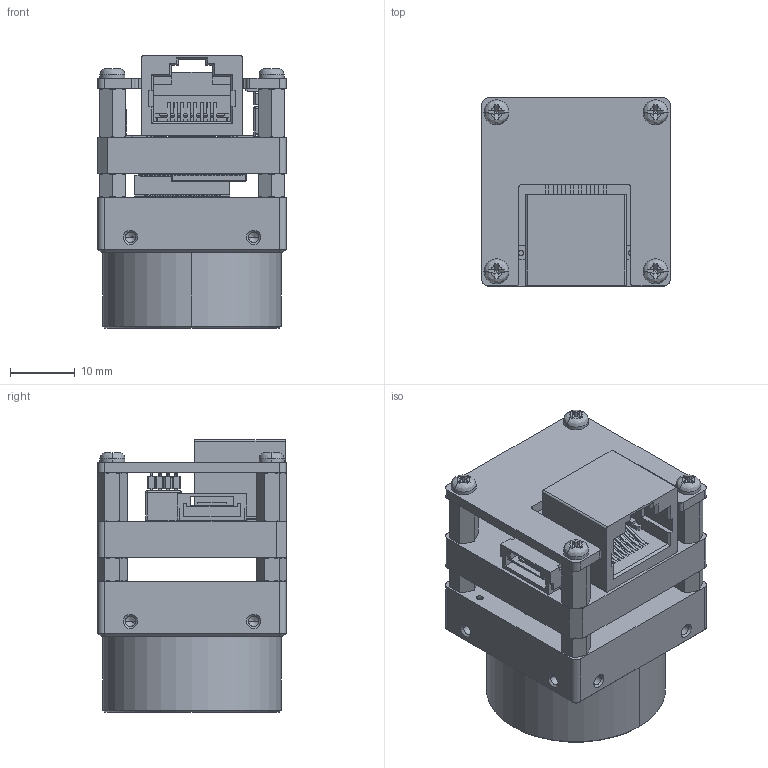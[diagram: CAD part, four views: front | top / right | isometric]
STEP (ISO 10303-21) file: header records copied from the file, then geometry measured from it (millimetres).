
FILE_DESCRIPTION((''),'2;1');
FILE_NAME('CB0603D-C000','2020-11-05T16:34:05',('fangguihua'),(''),'CREO PARAMETRIC BY PTC INC, 2017260','CREO PARAMETRIC BY PTC INC, 2017260','');
FILE_SCHEMA(('CONFIG_CONTROL_DESIGN'));
Products named in the file (1): CB0603D-C000
Bounding box: 29 x 29.12 x 42.01 mm (x, y, z)
Volume: 14002.4 mm3; surface area: 16142.8 mm2
Topology: 2 solids, 59 shells, 5272 faces, 15715 edges, 10335 vertices
Faces by surface type: plane 3343, cylinder 1483, cone 216, bspline 160, torus 62, sphere 8
Entity records: 187299 total; most frequent: CARTESIAN_POINT 43747, ORIENTED_EDGE 31170, DIRECTION 28540, EDGE_CURVE 15653, VECTOR 11408, LINE 11408, VERTEX_POINT 10332, AXIS2_PLACEMENT_3D 8566
